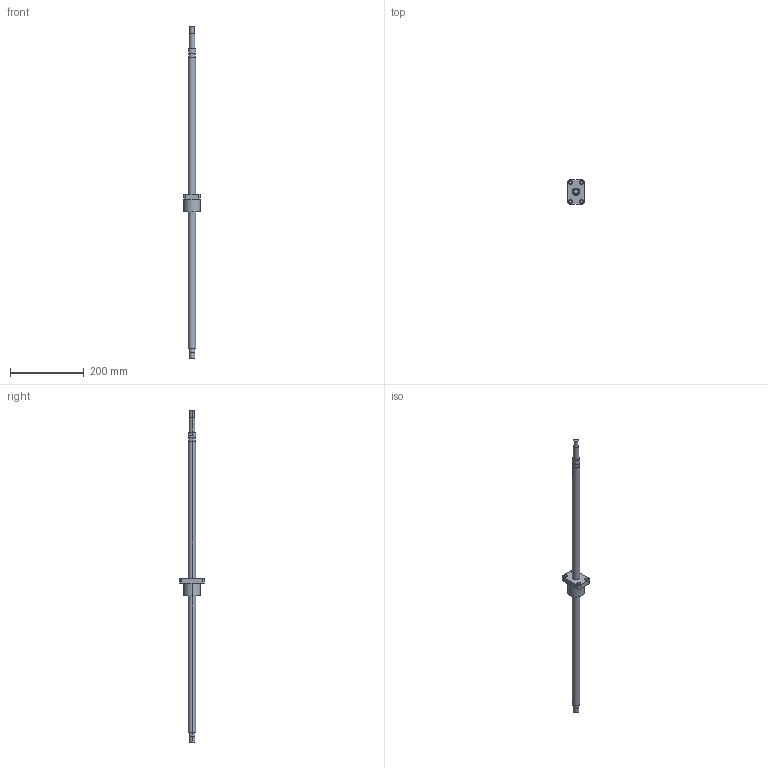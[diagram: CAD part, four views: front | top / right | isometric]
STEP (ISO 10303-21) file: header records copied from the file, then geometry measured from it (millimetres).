
FILE_DESCRIPTION((''),'2;1');
FILE_NAME('R20-10K3-FSC-789-899','2008-04-03T',('wcwu'),(''),'PRO/ENGINEER BY PARAMETRIC TECHNOLOGY CORPORATION, 2005070','PRO/ENGINEER BY PARAMETRIC TECHNOLOGY CORPORATION, 2005070','');
FILE_SCHEMA(('CONFIG_CONTROL_DESIGN'));
Length unit declared in the file: millimetre
Products named in the file (1): R20-10K3-FSC-789-899
Bounding box: 46 x 66 x 899 mm (x, y, z)
Volume: 346727.3 mm3; surface area: 66973.3 mm2
Topology: 1 solids, 1 shells, 65 faces, 146 edges, 96 vertices
Faces by surface type: cylinder 40, plane 25
Entity records: 1906 total; most frequent: DIRECTION 360, CARTESIAN_POINT 307, ORIENTED_EDGE 292, AXIS2_PLACEMENT_3D 149, EDGE_CURVE 146, VERTEX_POINT 96, EDGE_LOOP 86, CIRCLE 84
